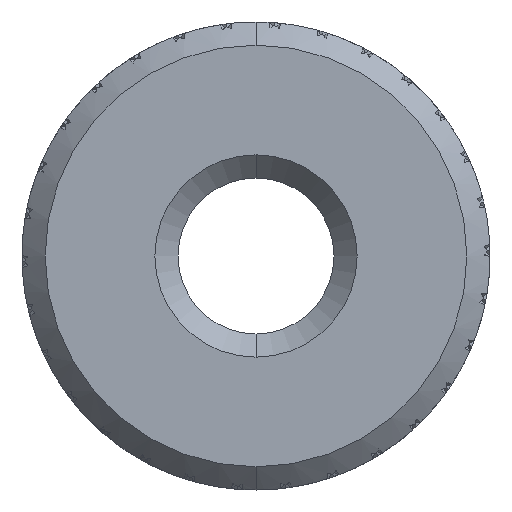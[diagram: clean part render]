
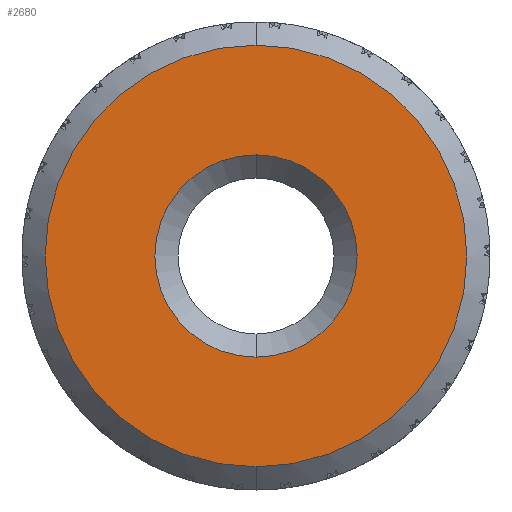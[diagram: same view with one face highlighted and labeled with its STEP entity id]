
A CAD part, left-side view. The second image highlights one B-rep face of the part: STEP entity #2680.
In plain terms, the highlighted planar face has unit normal (-1, 0, 0).
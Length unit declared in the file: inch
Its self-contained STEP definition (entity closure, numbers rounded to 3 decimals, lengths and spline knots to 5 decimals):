
#2398 = AXIS2_PLACEMENT_3D ( 'NONE', #22524, #22743, #57211 ) ;
#2461 = DIRECTION ( 'NONE',  ( 1., 0., 0. ) ) ;
#2680 = ADVANCED_FACE ( 'NONE', ( #48663, #4841 ), #37420, .T. ) ;
#4748 = DIRECTION ( 'NONE',  ( 1., 0., 0. ) ) ;
#4841 = FACE_OUTER_BOUND ( 'NONE', #24945, .T. ) ;
#4874 = AXIS2_PLACEMENT_3D ( 'NONE', #34261, #4748, #39189 ) ;
#5609 = DIRECTION ( 'NONE',  ( 1., 0., 0. ) ) ;
#5652 = ORIENTED_EDGE ( 'NONE', *, *, #36676, .T. ) ;
#7206 = ORIENTED_EDGE ( 'NONE', *, *, #19781, .T. ) ;
#7446 = EDGE_CURVE ( 'NONE', #21123, #22948, #62187, .T. ) ;
#9410 = CARTESIAN_POINT ( 'NONE',  ( 2.22621, 0., -0.0875 ) ) ;
#10993 = VERTEX_POINT ( 'NONE', #9410 ) ;
#11748 = CARTESIAN_POINT ( 'NONE',  ( 2.22621, 0., 0.1825 ) ) ;
#18395 = DIRECTION ( 'NONE',  ( 1., 0., 0. ) ) ;
#19781 = EDGE_CURVE ( 'NONE', #10993, #21797, #42110, .T. ) ;
#21123 = VERTEX_POINT ( 'NONE', #58310 ) ;
#21797 = VERTEX_POINT ( 'NONE', #42722 ) ;
#22524 = CARTESIAN_POINT ( 'NONE',  ( 2.22621, 0.1825, 0. ) ) ;
#22743 = DIRECTION ( 'NONE',  ( -1., 0., 0. ) ) ;
#22948 = VERTEX_POINT ( 'NONE', #11748 ) ;
#24945 = EDGE_LOOP ( 'NONE', ( #27824, #59856 ) ) ;
#27824 = ORIENTED_EDGE ( 'NONE', *, *, #7446, .F. ) ;
#31939 = CARTESIAN_POINT ( 'NONE',  ( 2.22621, 0., 0. ) ) ;
#32545 = EDGE_CURVE ( 'NONE', #22948, #21123, #44448, .T. ) ;
#34261 = CARTESIAN_POINT ( 'NONE',  ( 2.22621, 0., 0. ) ) ;
#35129 = CARTESIAN_POINT ( 'NONE',  ( 2.22621, 0., 0. ) ) ;
#36676 = EDGE_CURVE ( 'NONE', #21797, #10993, #44824, .T. ) ;
#36823 = EDGE_LOOP ( 'NONE', ( #5652, #7206 ) ) ;
#36894 = DIRECTION ( 'NONE',  ( 0., 0., -1. ) ) ;
#37112 = AXIS2_PLACEMENT_3D ( 'NONE', #35129, #5609, #40073 ) ;
#37420 = PLANE ( 'NONE',  #2398 ) ;
#39189 = DIRECTION ( 'NONE',  ( 0., 0., -1. ) ) ;
#40073 = DIRECTION ( 'NONE',  ( 0., 0., -1. ) ) ;
#42069 = AXIS2_PLACEMENT_3D ( 'NONE', #47901, #18395, #52843 ) ;
#42110 = CIRCLE ( 'NONE', #44634, 0.0875 ) ;
#42722 = CARTESIAN_POINT ( 'NONE',  ( 2.22621, 0., 0.0875 ) ) ;
#44448 = CIRCLE ( 'NONE', #37112, 0.1825 ) ;
#44634 = AXIS2_PLACEMENT_3D ( 'NONE', #31939, #2461, #36894 ) ;
#44824 = CIRCLE ( 'NONE', #42069, 0.0875 ) ;
#47901 = CARTESIAN_POINT ( 'NONE',  ( 2.22621, 0., 0. ) ) ;
#48663 = FACE_BOUND ( 'NONE', #36823, .T. ) ;
#52843 = DIRECTION ( 'NONE',  ( 0., 0., -1. ) ) ;
#57211 = DIRECTION ( 'NONE',  ( 0., 0., 1. ) ) ;
#58310 = CARTESIAN_POINT ( 'NONE',  ( 2.22621, 0., -0.1825 ) ) ;
#59856 = ORIENTED_EDGE ( 'NONE', *, *, #32545, .F. ) ;
#62187 = CIRCLE ( 'NONE', #4874, 0.1825 ) ;
